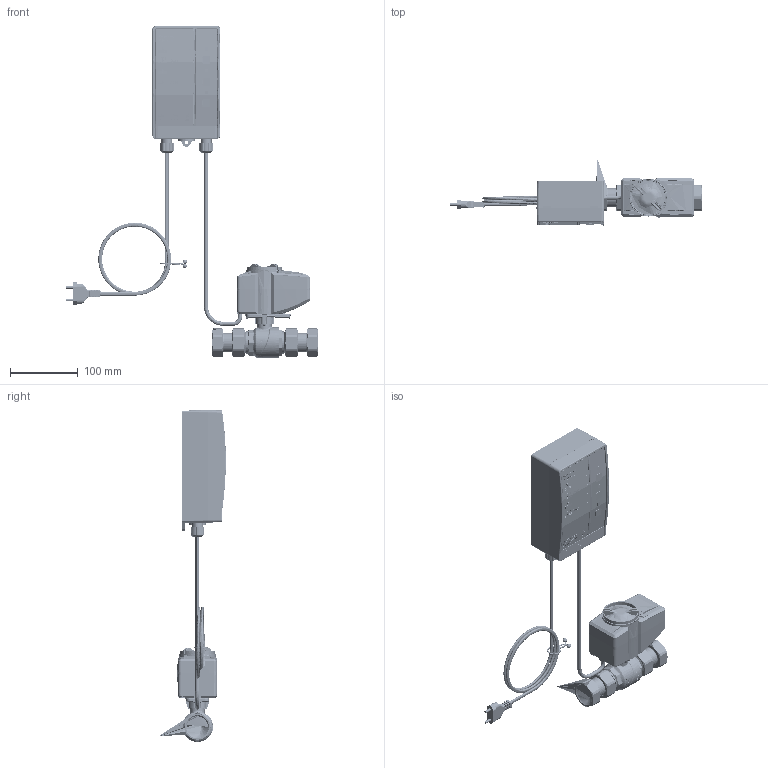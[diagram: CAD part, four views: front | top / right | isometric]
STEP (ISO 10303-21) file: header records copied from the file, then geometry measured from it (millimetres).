
FILE_DESCRIPTION (( 'STEP AP214' ), '1' );
FILE_NAME ('WATERCONTROL_System_detekcji_wycieku_42571_0_3D_AFRISO.STEP', '2024-03-18T09:35:55', ( '' ), ( '' ), 'SwSTEP 2.0', 'SolidWorks 2022', '' );
FILE_SCHEMA (( 'AUTOMOTIVE_DESIGN' ));
Length unit declared in the file: millimetre
Products named in the file (73): Verschraubung G1i x G1_X_DCM_05 09 000118; Teil_12; ISO 7049-ST 2.2x4.5-C-H_907981 2245_0_2; 09 01 000001_Geh_X_E4useunterteil LAG 2006; 09 01 000010_Blende LAG 2006 mit AFRISO-Logo; Raccordo-Watchdog-1-lavorato_ISO 228 SAB; Klemmk_X_F6rper f. Kabelverschraubung M16x1,5_685 000 0047_0; Corpo-Watchdog-1M-att-Motore-Lavorato; Teil_14; frontschildbedruckung_Baugruppe; Watchdog-1-1Mx1M; Dichtring ID 9x11,8x7,5 f. PG-Einsatz M16x1,5_760 000 0113_0; 760 000 0163_Flachdichtung _X_F830x23x2 F 391; Linsenkopfschraube _709 000 0006_0; Kugelhahn G1a_a WaterControl 01_05 09 000046; Frontschild WaterControl 01_09 03 010005_0; 3252-Niplo-1Fx1F-C1405252; Dichtring ID 9x11,5x7,5 f. PG-Einsatz M16x1,5_760 000 0113_0; Teil; ISO 7049-ST 2.2x4.5-C-H_907981 2245_0_3; Dado-1460- 1-Lavorato-31505460_2; 3252-Niplo-1Fx1F-Lavorato-31405252_2; Klemmk_X_F6rper f. Kabelverschraubung M16x1,5_685 000 0047_0_2; Teil_15; Gegenmutter M20x1,5 PA6 grau_685 000 0042; NONE; A; Blindverschraubung NG 20 PS_685 000 0053; 760 000 0163_Flachdichtung _X_F830x23x2 F 391_2; O-Ring _X_F86,50x1,50mm NBR 70 _X_B15 IRHD_801 000 01_04_0; Teil_3; watchdog; WATERCONTROL_System_detekcji_wycieku_42571_0_3D_AFRISO; 2x _X_DCberwurfmutter M16x1,5_09 01 000012_0; Teil_4; 13 40 000001_Kabeldriller B_X_FCndelung 13,5-16; 18 05 000003_Folientastatur Signalteil selbstkl.; Teil_8; Teil_13; Symbole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
Assembly tree (72 placements, depth 6):
  WATERCONTROL_System_detekcji_wycieku_42571_0_3D_AFRISO
    42571_WaterControl 01.1 G1
      _X_DCberwurfmutter M16x1,5_09 01 000012_0
      2x _X_DCberwurfmutter M16x1,5_09 01 000012_0
      Klemmk_X_F6rper f. Kabelverschraubung M16x1,5_685 000 0047_0
        Klemmk_X_F6rper f. Kabelverschraubung M16x1,5_685 000 0047_0
        Dichtring ID 9x11,8x7,5 f. PG-Einsatz M16x1,5_760 000 0113_0
      Klemmk_X_F6rper f. Kabelverschraubung M16x1,5_685 000 0047_0_2
        Klemmk_X_F6rper f. Kabelverschraubung M16x1,5_685 000 0047_0_2
        Dichtring ID 9x11,5x7,5 f. PG-Einsatz M16x1,5_760 000 0113_0
      LINSENBLECHSCHRAUBEN_3,5
        Linsenkopfschraube _709 000 0006_0
        Linsenkopfschraube 3,5x20 f. Kunststoffe_709 000 0006_0
      LINSENBLECHSCHRAUBEN_2,2
        ISO 7049-ST 2.2x4.5-C-H_907981 2245_0
        ISO 7049-ST 2.2x4.5-C-H_907981 2245_0_2
        ISO 7049-ST 2.2x4.5-C-H_907981 2245_0_3
        ISO 7049-ST 2.2x4.5-C-H_907981 2245_0_4
      O-Ring _X_F86,50x1,50mm NBR 70 _X_B15 IRHD_801 000 01_04_0
      Frontschild WaterControl 01_09 03 010005_0
        Frontschild WaterControl 01_09 03 010005_0
        frontschildbedruckung_Baugruppe
          Symbole
          watchdog
          schrift
      Gegenmutter M20x1,5 PA6 grau_685 000 0042
      Blindverschraubung NG 20 PS_685 000 0053
      18 05 000003_Folientastatur Signalteil selbstkl.
        18 05 000003_Folientastatur Signalteil selbstkl.
        Tasten
      09 01 000002_Geh_X_E4use Oberteil Signalteil
        09 01 000002_Geh_X_E4use Oberteil Signalteil
      09 01 000001_Geh_X_E4useunterteil LAG 2006
      09 01 000010_Blende LAG 2006 mit AFRISO-Logo
        09 01 000010_Blende LAG 2006 mit AFRISO-Logo
        AFRISO-LOGO_NEU_2012
          AFRISO-LOGO_NEU_2012
          A
      Watchdog-1-1Mx1M
        Motore-NVM03-con-Cavo-integrato
          Teil
          Teil_2
          Teil_3
          Teil_4
          Teil_5
          Teil_6
          Teil_7
          NONE
        Antrieb 24V WaterControl 01_05 00 000319
          Teil_8
          Teil_9
          Teil_10
          Teil_11
          Teil_12
          Teil_13
          Teil_14
        Kugelhahn G1a_a WaterControl 01_05 09 000046
          Raccordo-Watchdog-1-lavorato_ISO 228 SAB
          Corpo-Watchdog-1M-att-Motore-Lavorato
        760 000 0163_Flachdichtung _X_F830x23x2 F 391
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Bounding box: 371.01 x 99.7 x 489.35 mm (x, y, z)
Volume: 317081.7 mm3; surface area: 364836.5 mm2
Topology: 165 solids, 174 shells, 12117 faces, 33006 edges, 21241 vertices
Faces by surface type: cylinder 6427, plane 3398, bspline 1538, cone 722, torus 32
Entity records: 558161 total; most frequent: CARTESIAN_POINT 227077, ORIENTED_EDGE 65686, DIRECTION 44922, EDGE_CURVE 32847, VERTEX_POINT 21235, AXIS2_PLACEMENT_3D 15305, LINE 14312, VECTOR 14312
